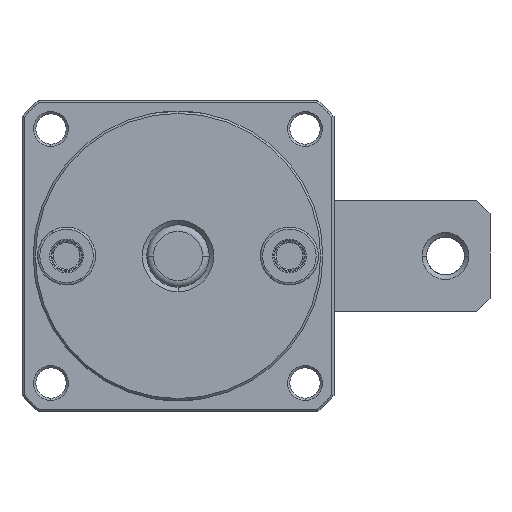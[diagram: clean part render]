
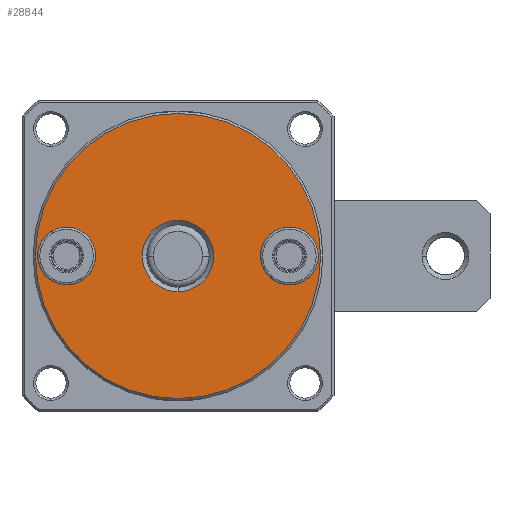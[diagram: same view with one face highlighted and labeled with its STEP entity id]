
A CAD part, front view. The second image highlights one B-rep face of the part: STEP entity #28844.
In plain terms, the highlighted planar face has unit normal (0, -1, 0).
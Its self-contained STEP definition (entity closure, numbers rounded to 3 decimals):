
#8325 = CIRCLE ( 'NONE', #9052, 4.55 ) ;
#8327 = CIRCLE ( 'NONE', #9057, 4.55 ) ;
#8379 = CIRCLE ( 'NONE', #12244, 32. ) ;
#8381 = CIRCLE ( 'NONE', #12248, 8. ) ;
#8484 = CIRCLE ( 'NONE', #13796, 8. ) ;
#8485 = CIRCLE ( 'NONE', #13800, 4.55 ) ;
#8486 = CIRCLE ( 'NONE', #13799, 4.55 ) ;
#8487 = CIRCLE ( 'NONE', #13798, 32. ) ;
#9052 = AXIS2_PLACEMENT_3D ( 'NONE', #10687, #10688, #10689 ) ;
#9057 = AXIS2_PLACEMENT_3D ( 'NONE', #10729, #10730, #10731 ) ;
#10687 = CARTESIAN_POINT ( 'NONE',  ( -14620.347, 1869.687, 0. ) ) ;
#10688 = DIRECTION ( 'NONE',  ( 0., 1., 0. ) ) ;
#10689 = DIRECTION ( 'NONE',  ( 0., 0., -1. ) ) ;
#10729 = CARTESIAN_POINT ( 'NONE',  ( -14570.347, 1869.687, 0. ) ) ;
#10730 = DIRECTION ( 'NONE',  ( 0., 1., 0. ) ) ;
#10731 = DIRECTION ( 'NONE',  ( 0., 0., -1. ) ) ;
#11486 = CARTESIAN_POINT ( 'NONE',  ( -14620.347, 1869.687, 4.55 ) ) ;
#11487 = CARTESIAN_POINT ( 'NONE',  ( -14620.347, 1869.687, -4.55 ) ) ;
#11491 = CARTESIAN_POINT ( 'NONE',  ( -14570.347, 1869.687, 4.55 ) ) ;
#11492 = CARTESIAN_POINT ( 'NONE',  ( -14570.347, 1869.687, -4.55 ) ) ;
#11654 = CARTESIAN_POINT ( 'NONE',  ( -14595.347, 1869.687, -32. ) ) ;
#11655 = CARTESIAN_POINT ( 'NONE',  ( -14595.347, 1869.687, 32. ) ) ;
#11658 = CARTESIAN_POINT ( 'NONE',  ( -14595.347, 1869.687, 8. ) ) ;
#11659 = CARTESIAN_POINT ( 'NONE',  ( -14595.347, 1869.687, -8. ) ) ;
#12244 = AXIS2_PLACEMENT_3D ( 'NONE', #12814, #12821, #12822 ) ;
#12248 = AXIS2_PLACEMENT_3D ( 'NONE', #12832, #12833, #12834 ) ;
#12814 = CARTESIAN_POINT ( 'NONE',  ( -14595.347, 1869.687, 0. ) ) ;
#12821 = DIRECTION ( 'NONE',  ( 0., -1., 0. ) ) ;
#12822 = DIRECTION ( 'NONE',  ( 0., 0., -1. ) ) ;
#12832 = CARTESIAN_POINT ( 'NONE',  ( -14595.347, 1869.687, 0. ) ) ;
#12833 = DIRECTION ( 'NONE',  ( 0., -1., 0. ) ) ;
#12834 = DIRECTION ( 'NONE',  ( 0., 0., -1. ) ) ;
#13796 = AXIS2_PLACEMENT_3D ( 'NONE', #14539, #14540, #14541 ) ;
#13798 = AXIS2_PLACEMENT_3D ( 'NONE', #14548, #14549, #14550 ) ;
#13799 = AXIS2_PLACEMENT_3D ( 'NONE', #14545, #14546, #14547 ) ;
#13800 = AXIS2_PLACEMENT_3D ( 'NONE', #14542, #14543, #14544 ) ;
#14539 = CARTESIAN_POINT ( 'NONE',  ( -14595.347, 1869.687, 0. ) ) ;
#14540 = DIRECTION ( 'NONE',  ( 0., -1., 0. ) ) ;
#14541 = DIRECTION ( 'NONE',  ( 0., 0., -1. ) ) ;
#14542 = CARTESIAN_POINT ( 'NONE',  ( -14570.347, 1869.687, 0. ) ) ;
#14543 = DIRECTION ( 'NONE',  ( 0., 1., 0. ) ) ;
#14544 = DIRECTION ( 'NONE',  ( 0., 0., -1. ) ) ;
#14545 = CARTESIAN_POINT ( 'NONE',  ( -14620.347, 1869.687, 0. ) ) ;
#14546 = DIRECTION ( 'NONE',  ( 0., 1., 0. ) ) ;
#14547 = DIRECTION ( 'NONE',  ( 0., 0., -1. ) ) ;
#14548 = CARTESIAN_POINT ( 'NONE',  ( -14595.347, 1869.687, 0. ) ) ;
#14549 = DIRECTION ( 'NONE',  ( 0., -1., 0. ) ) ;
#14550 = DIRECTION ( 'NONE',  ( 0., 0., -1. ) ) ;
#16077 = PLANE ( 'NONE',  #16808 ) ;
#16078 = CARTESIAN_POINT ( 'NONE',  ( -14566.847, 1869.687, 0. ) ) ;
#16079 = DIRECTION ( 'NONE',  ( 0., -1., 0. ) ) ;
#16080 = DIRECTION ( 'NONE',  ( 0., 0., -1. ) ) ;
#16806 = FACE_BOUND ( 'NONE', #29930, .T. ) ;
#16808 = AXIS2_PLACEMENT_3D ( 'NONE', #16078, #16079, #16080 ) ;
#16809 = FACE_BOUND ( 'NONE', #29931, .T. ) ;
#16811 = FACE_OUTER_BOUND ( 'NONE', #29932, .T. ) ;
#16813 = FACE_BOUND ( 'NONE', #29933, .T. ) ;
#26487 = EDGE_CURVE ( 'NONE', #27513, #27512, #8325, .T. ) ;
#26492 = EDGE_CURVE ( 'NONE', #27518, #27517, #8327, .T. ) ;
#27512 = VERTEX_POINT ( 'NONE', #11486 ) ;
#27513 = VERTEX_POINT ( 'NONE', #11487 ) ;
#27517 = VERTEX_POINT ( 'NONE', #11491 ) ;
#27518 = VERTEX_POINT ( 'NONE', #11492 ) ;
#27680 = VERTEX_POINT ( 'NONE', #11654 ) ;
#27681 = VERTEX_POINT ( 'NONE', #11655 ) ;
#27684 = VERTEX_POINT ( 'NONE', #11658 ) ;
#27685 = VERTEX_POINT ( 'NONE', #11659 ) ;
#28456 = EDGE_CURVE ( 'NONE', #27680, #27681, #8379, .T. ) ;
#28460 = EDGE_CURVE ( 'NONE', #27684, #27685, #8381, .T. ) ;
#28745 = EDGE_CURVE ( 'NONE', #27685, #27684, #8484, .T. ) ;
#28746 = EDGE_CURVE ( 'NONE', #27517, #27518, #8485, .T. ) ;
#28747 = EDGE_CURVE ( 'NONE', #27512, #27513, #8486, .T. ) ;
#28748 = EDGE_CURVE ( 'NONE', #27681, #27680, #8487, .T. ) ;
#28844 = ADVANCED_FACE ( 'NONE', ( #16806, #16809, #16811, #16813 ), #16077, .T. ) ;
#29566 = ORIENTED_EDGE ( 'NONE', *, *, #28745, .F. ) ;
#29567 = ORIENTED_EDGE ( 'NONE', *, *, #26492, .T. ) ;
#29568 = ORIENTED_EDGE ( 'NONE', *, *, #28746, .T. ) ;
#29569 = ORIENTED_EDGE ( 'NONE', *, *, #28747, .T. ) ;
#29570 = ORIENTED_EDGE ( 'NONE', *, *, #26487, .T. ) ;
#29571 = ORIENTED_EDGE ( 'NONE', *, *, #28748, .T. ) ;
#29573 = ORIENTED_EDGE ( 'NONE', *, *, #28456, .T. ) ;
#29574 = ORIENTED_EDGE ( 'NONE', *, *, #28460, .F. ) ;
#29930 = EDGE_LOOP ( 'NONE', ( #29567, #29568 ) ) ;
#29931 = EDGE_LOOP ( 'NONE', ( #29570, #29569 ) ) ;
#29932 = EDGE_LOOP ( 'NONE', ( #29571, #29573 ) ) ;
#29933 = EDGE_LOOP ( 'NONE', ( #29566, #29574 ) ) ;
